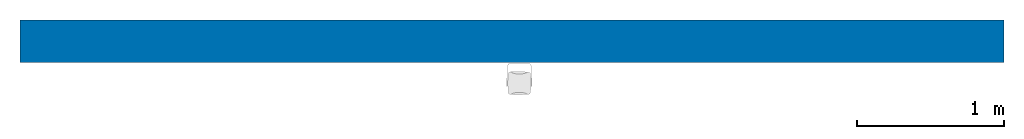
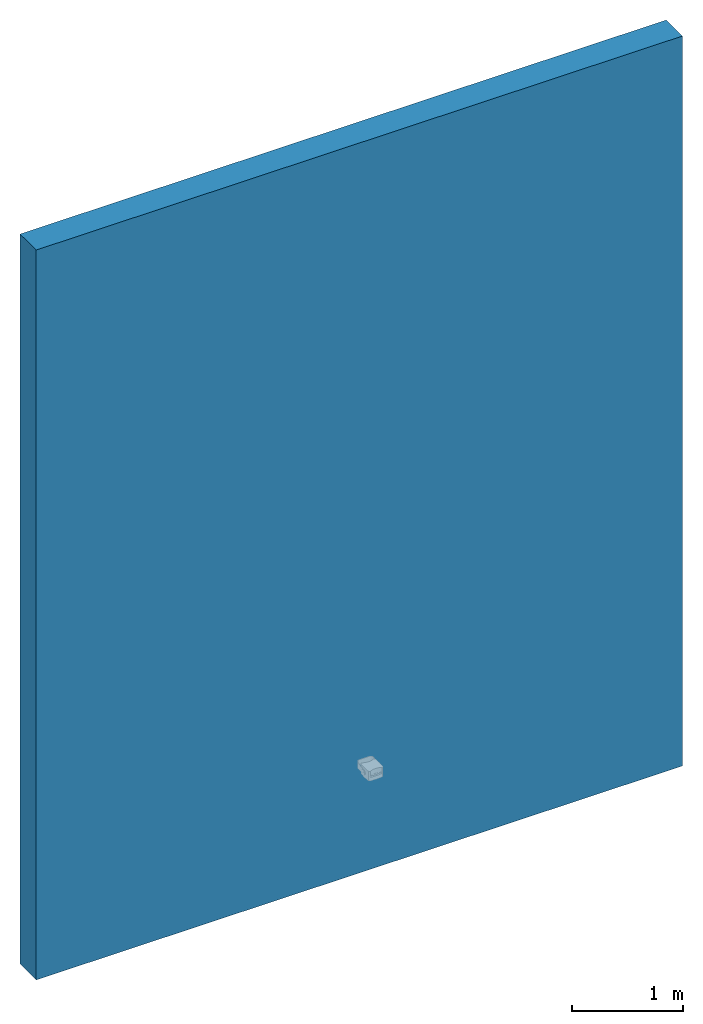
# One storey, incomplete: 1 wall.
"""IFC2X3 building model written with IfcOpenShell, lengths in millimetres."""

from ifc_helpers import new_model, entity, si_unit, converted_unit, derived_unit, direction, frame, frame_2d, origin, place, context, subcontext, project, spatial, rectangle, extrude, material, layer, layer_set, layer_usage, type_object, element, save


model = new_model("IFC2X3")

# Units and contexts
model_context = context("Model", 3, precision=0.01, world=origin(), true_north=direction((6.12303176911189e-17, 1.0)))
body_context = subcontext(model_context, "Body", "Model", "MODEL_VIEW")
ifc_project = project(units=[si_unit("LENGTHUNIT", "METRE", prefix="MILLI"), si_unit("AREAUNIT", "SQUARE_METRE"), si_unit("VOLUMEUNIT", "CUBIC_METRE"), converted_unit("PLANEANGLEUNIT", "DEGREE", entity("IfcRatioMeasure", 0.0174532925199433), si_unit("PLANEANGLEUNIT", "RADIAN"), dimensions=[0, 0, 0, 0, 0, 0, 0]), si_unit("MASSUNIT", "GRAM", prefix="KILO"), si_unit("TIMEUNIT", "SECOND"), si_unit("FREQUENCYUNIT", "HERTZ"), si_unit("THERMODYNAMICTEMPERATUREUNIT", "DEGREE_CELSIUS"), derived_unit("THERMALTRANSMITTANCEUNIT", [(si_unit("MASSUNIT", "GRAM", prefix="KILO"), 1), (si_unit("THERMODYNAMICTEMPERATUREUNIT", "KELVIN"), -1), (si_unit("TIMEUNIT", "SECOND"), -3)]), derived_unit("VOLUMETRICFLOWRATEUNIT", [(si_unit("LENGTHUNIT", "METRE"), 3), (si_unit("TIMEUNIT", "SECOND"), -1)]), si_unit("ELECTRICCURRENTUNIT", "AMPERE"), si_unit("ELECTRICVOLTAGEUNIT", "VOLT"), si_unit("POWERUNIT", "WATT"), si_unit("FORCEUNIT", "NEWTON", prefix="KILO"), si_unit("ILLUMINANCEUNIT", "LUX"), si_unit("LUMINOUSFLUXUNIT", "LUMEN"), si_unit("LUMINOUSINTENSITYUNIT", "CANDELA"), derived_unit("USERDEFINED", [(si_unit("MASSUNIT", "GRAM", prefix="KILO"), -1), (si_unit("LENGTHUNIT", "METRE"), -2), (si_unit("TIMEUNIT", "SECOND"), 3), (si_unit("LUMINOUSFLUXUNIT", "LUMEN"), 1)]), derived_unit("LINEARVELOCITYUNIT", [(si_unit("LENGTHUNIT", "METRE"), 1), (si_unit("TIMEUNIT", "SECOND"), -1)]), si_unit("PRESSUREUNIT", "PASCAL"), derived_unit("USERDEFINED", [(si_unit("LENGTHUNIT", "METRE"), -2), (si_unit("MASSUNIT", "GRAM", prefix="KILO"), 1), (si_unit("TIMEUNIT", "SECOND"), -2)])], contexts=[model_context])

# Site, building, storey
site_placement = place(None, origin())
site = spatial("IfcSite", under=ifc_project, at=site_placement, Name="Default", CompositionType="ELEMENT")
building_placement = place(site_placement, origin())
building = spatial("IfcBuilding", under=site, at=building_placement, CompositionType="ELEMENT")
storey_placement = place(building_placement, origin())
storey = spatial("IfcBuildingStorey", under=building, at=storey_placement, Name="Level 0", CompositionType="ELEMENT", Elevation=0.0)

# Wall
ifc_material_1 = material(Name="Brick, Common")
ifc_layer_1 = layer(ifc_material_1, 102.5)
ifc_material_2 = material(Name="Fiberglass Batt")
ifc_layer_2 = layer(ifc_material_2, 75.0)
ifc_material_3 = material(Name="Concrete Masonry Units _Low Density")
ifc_layer_3 = layer(ifc_material_3, 100.0)
ifc_material_4 = material(Name="Plaster")
ifc_layer_4 = layer(ifc_material_4, 12.5)
ifc_layer_set = layer_set([ifc_layer_1, ifc_layer_2, ifc_layer_3, ifc_layer_4], Name="Basic Wall:Wall-Ext_102Bwk-75Ins-100LBlk-12P")
ifc_layer_usage = layer_usage(ifc_layer_set, "AXIS2", "NEGATIVE", 145.0)
wall_type = type_object("IfcWallType", Name="Basic Wall:Wall-Ext_102Bwk-75Ins-100LBlk-12P", PredefinedType="STANDARD", material=ifc_layer_set)
wall_placement = place(storey_placement, frame((-3747.08830821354, 1991.92820704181, 0.0)))
element("IfcWallStandardCase", 1, at=wall_placement, inside=storey, type_object=wall_type, material=ifc_layer_usage, Name="Basic Wall:Wall-Ext_102Bwk-75Ins-100LBlk-12P", ObjectType="Basic Wall:Wall-Ext_102Bwk-75Ins-100LBlk-12P", context=body_context, shape_type="SweptSolid", body=[
    extrude(rectangle(XDim=6700.0, YDim=290.0, at=frame_2d((3350.0, 4.2632564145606e-14), x_axis=(-1.0, 0.0))), origin(), (0.0, 0.0, 1.0), 8000.0),
])

save(model, "model.ifc")
